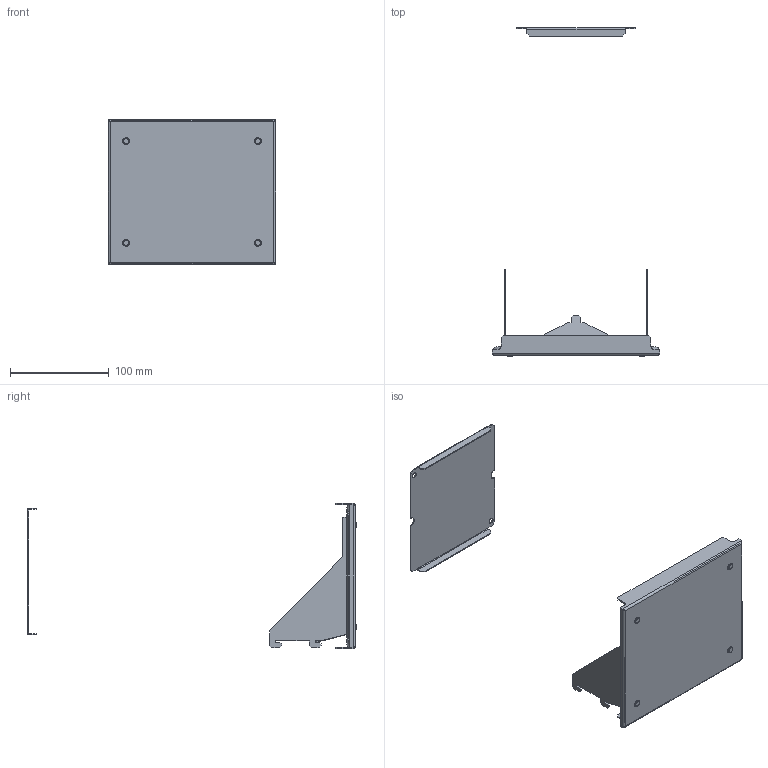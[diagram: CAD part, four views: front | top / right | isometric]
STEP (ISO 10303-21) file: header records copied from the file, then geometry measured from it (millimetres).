
FILE_DESCRIPTION(('CAx-IF Rec.Pracs.---Model Styling and Organization---1.2---2011-12-15','CAx-IF Rec.Pracs.---Geometric and Assembly Validation Properties---4.1---2014-06-16','CAx-IF Rec.Pracs.---PMI Polyline Presentation---2.0---2013-05-24'),'2;1');
FILE_NAME('R5M2W3M3BS.stp','2021-05-05T12:16:40+03:00',(''),(''),'STEP Interface 4.4 by CT CoreTechnologie','3D_Evolution4.4 by CT CoreTechnologie','');
FILE_SCHEMA(('AUTOMOTIVE_DESIGN { 1 0 10303 214 1 1 1 1 }'));
Length unit declared in the file: millimetre
Products named in the file (9): R5M2W3M3BS; RB.1256.00.00.0_-00; RB.1237.00.00.0_-01; 5-GOST 11371-78 (DIN 125) PA 6.6_5-GOST 11371-78 (DIN 125) PA 6.6; RB.1235.00.00.0 ÑÁ_-01; RB.1235.00.01.0_-01; PF 7x14 RAMmcc 2.0_1x3; Ì6õ12-A5100231_straight; AC00C061_AC00C061
Assembly tree (11 placements, depth 3):
  R5M2W3M3BS
    RB.1256.00.00.0_-00
    RB.1237.00.00.0_-01
    5-GOST 11371-78 (DIN 125) PA 6.6_5-GOST 11371-78 (DIN 125) PA 6.6  x4
    RB.1235.00.00.0 ÑÁ_-01
      RB.1235.00.01.0_-01
      PF 7x14 RAMmcc 2.0_1x3
      Ì6õ12-A5100231_straight
      AC00C061_AC00C061
Bounding box: 169.5 x 332 x 147 mm (x, y, z)
Surface area: 154274.4 mm2 (no closed solid volume)
Topology: 0 solids, 14 shells, 253 faces, 636 edges, 407 vertices
Faces by surface type: plane 172, cylinder 69, bspline 12
Entity records: 8150 total; most frequent: CARTESIAN_POINT 1816, ORIENTED_EDGE 1228, DIRECTION 1198, EDGE_CURVE 614, VECTOR 468, LINE 468, VERTEX_POINT 395, AXIS2_PLACEMENT_3D 365
